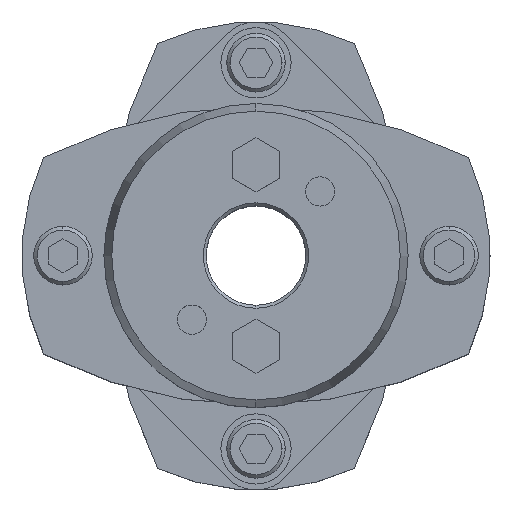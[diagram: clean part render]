
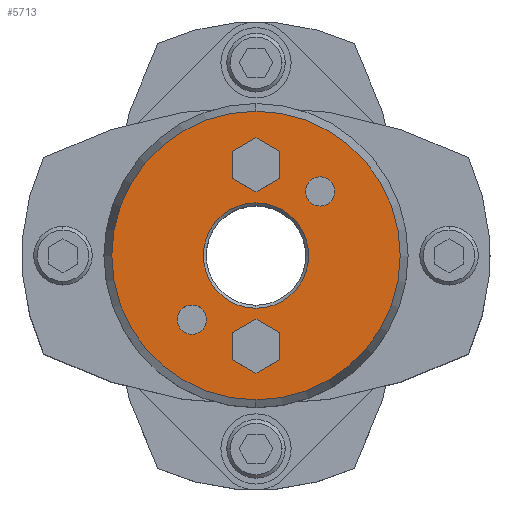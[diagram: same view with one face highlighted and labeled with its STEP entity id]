
A CAD part, top view. The second image highlights one B-rep face of the part: STEP entity #5713.
In plain terms, the highlighted planar face has unit normal (0, 0, 1).
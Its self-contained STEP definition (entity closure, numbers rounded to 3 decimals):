
#1677=CARTESIAN_POINT('',(0.,9.,45.25));
#1678=VERTEX_POINT('',#1677);
#1694=CARTESIAN_POINT('',(0.,-9.,45.25));
#1695=VERTEX_POINT('',#1694);
#1702=CARTESIAN_POINT('',(0.,0.,45.25));
#1703=DIRECTION('',(0.0,0.0,1.0));
#1704=DIRECTION('',(0.0,1.0,0.0));
#1705=AXIS2_PLACEMENT_3D('',#1702,#1703,#1704);
#1706=CIRCLE('',#1705,9.0);
#1707=EDGE_CURVE('',#1695,#1678,#1706,.T.);
#1865=CARTESIAN_POINT('',(0.,-24.66,45.25));
#1866=VERTEX_POINT('',#1865);
#1873=CARTESIAN_POINT('',(0.,24.66,45.25));
#1874=VERTEX_POINT('',#1873);
#1875=CARTESIAN_POINT('',(0.,0.,45.25));
#1876=DIRECTION('',(0.0,0.0,-1.0));
#1877=DIRECTION('',(0.0,-1.0,0.0));
#1878=AXIS2_PLACEMENT_3D('',#1875,#1876,#1877);
#1879=CIRCLE('',#1878,24.66);
#1880=EDGE_CURVE('',#1866,#1874,#1879,.T.);
#1975=CARTESIAN_POINT('',(10.96,13.46,45.25));
#1976=VERTEX_POINT('',#1975);
#1992=CARTESIAN_POINT('',(10.96,8.46,45.25));
#1993=VERTEX_POINT('',#1992);
#2000=CARTESIAN_POINT('',(10.96,10.96,45.25));
#2001=DIRECTION('',(0.0,0.0,-1.0));
#2002=DIRECTION('',(0.0,1.0,0.0));
#2003=AXIS2_PLACEMENT_3D('',#2000,#2001,#2002);
#2004=CIRCLE('',#2003,2.5);
#2005=EDGE_CURVE('',#1976,#1993,#2004,.T.);
#2017=CARTESIAN_POINT('',(-10.96,-8.46,45.25));
#2018=VERTEX_POINT('',#2017);
#2034=CARTESIAN_POINT('',(-10.96,-13.46,45.25));
#2035=VERTEX_POINT('',#2034);
#2042=CARTESIAN_POINT('',(-10.96,-10.96,45.25));
#2043=DIRECTION('',(0.0,0.0,-1.0));
#2044=DIRECTION('',(0.0,1.0,0.0));
#2045=AXIS2_PLACEMENT_3D('',#2042,#2043,#2044);
#2046=CIRCLE('',#2045,2.5);
#2047=EDGE_CURVE('',#2018,#2035,#2046,.T.);
#4957=CARTESIAN_POINT('',(0.,-10.881,45.25));
#4958=VERTEX_POINT('',#4957);
#4965=CARTESIAN_POINT('',(-4.,-13.191,45.25));
#4966=VERTEX_POINT('',#4965);
#4967=CARTESIAN_POINT('',(-4.,-13.191,45.25));
#4968=DIRECTION('',(0.866,0.5,0.0));
#4969=VECTOR('',#4968,4.619);
#4970=LINE('',#4967,#4969);
#4971=EDGE_CURVE('',#4966,#4958,#4970,.T.);
#4995=CARTESIAN_POINT('',(4.,-13.191,45.25));
#4996=VERTEX_POINT('',#4995);
#5003=CARTESIAN_POINT('',(0.,-10.881,45.25));
#5004=DIRECTION('',(0.866,-0.5,0.0));
#5005=VECTOR('',#5004,4.619);
#5006=LINE('',#5003,#5005);
#5007=EDGE_CURVE('',#4958,#4996,#5006,.T.);
#5026=CARTESIAN_POINT('',(4.,-17.809,45.25));
#5027=VERTEX_POINT('',#5026);
#5034=CARTESIAN_POINT('',(4.,-13.191,45.25));
#5035=DIRECTION('',(0.0,-1.0,0.0));
#5036=VECTOR('',#5035,4.619);
#5037=LINE('',#5034,#5036);
#5038=EDGE_CURVE('',#4996,#5027,#5037,.T.);
#5057=CARTESIAN_POINT('',(0.,-20.119,45.25));
#5058=VERTEX_POINT('',#5057);
#5065=CARTESIAN_POINT('',(4.,-17.809,45.25));
#5066=DIRECTION('',(-0.866,-0.5,0.0));
#5067=VECTOR('',#5066,4.619);
#5068=LINE('',#5065,#5067);
#5069=EDGE_CURVE('',#5027,#5058,#5068,.T.);
#5088=CARTESIAN_POINT('',(-4.,-17.809,45.25));
#5089=VERTEX_POINT('',#5088);
#5096=CARTESIAN_POINT('',(0.,-20.119,45.25));
#5097=DIRECTION('',(-0.866,0.5,0.0));
#5098=VECTOR('',#5097,4.619);
#5099=LINE('',#5096,#5098);
#5100=EDGE_CURVE('',#5058,#5089,#5099,.T.);
#5118=CARTESIAN_POINT('',(-4.,-17.809,45.25));
#5119=DIRECTION('',(0.0,1.0,0.0));
#5120=VECTOR('',#5119,4.619);
#5121=LINE('',#5118,#5120);
#5122=EDGE_CURVE('',#5089,#4966,#5121,.T.);
#5157=CARTESIAN_POINT('',(0.,20.119,45.25));
#5158=VERTEX_POINT('',#5157);
#5165=CARTESIAN_POINT('',(-4.,17.809,45.25));
#5166=VERTEX_POINT('',#5165);
#5167=CARTESIAN_POINT('',(-4.,17.809,45.25));
#5168=DIRECTION('',(0.866,0.5,0.0));
#5169=VECTOR('',#5168,4.619);
#5170=LINE('',#5167,#5169);
#5171=EDGE_CURVE('',#5166,#5158,#5170,.T.);
#5195=CARTESIAN_POINT('',(4.,17.809,45.25));
#5196=VERTEX_POINT('',#5195);
#5203=CARTESIAN_POINT('',(0.,20.119,45.25));
#5204=DIRECTION('',(0.866,-0.5,0.0));
#5205=VECTOR('',#5204,4.619);
#5206=LINE('',#5203,#5205);
#5207=EDGE_CURVE('',#5158,#5196,#5206,.T.);
#5226=CARTESIAN_POINT('',(4.,13.191,45.25));
#5227=VERTEX_POINT('',#5226);
#5234=CARTESIAN_POINT('',(4.,17.809,45.25));
#5235=DIRECTION('',(0.0,-1.0,0.0));
#5236=VECTOR('',#5235,4.619);
#5237=LINE('',#5234,#5236);
#5238=EDGE_CURVE('',#5196,#5227,#5237,.T.);
#5257=CARTESIAN_POINT('',(0.,10.881,45.25));
#5258=VERTEX_POINT('',#5257);
#5265=CARTESIAN_POINT('',(4.,13.191,45.25));
#5266=DIRECTION('',(-0.866,-0.5,0.0));
#5267=VECTOR('',#5266,4.619);
#5268=LINE('',#5265,#5267);
#5269=EDGE_CURVE('',#5227,#5258,#5268,.T.);
#5288=CARTESIAN_POINT('',(-4.,13.191,45.25));
#5289=VERTEX_POINT('',#5288);
#5296=CARTESIAN_POINT('',(0.,10.881,45.25));
#5297=DIRECTION('',(-0.866,0.5,0.0));
#5298=VECTOR('',#5297,4.619);
#5299=LINE('',#5296,#5298);
#5300=EDGE_CURVE('',#5258,#5289,#5299,.T.);
#5318=CARTESIAN_POINT('',(-4.,13.191,45.25));
#5319=DIRECTION('',(0.0,1.0,0.0));
#5320=VECTOR('',#5319,4.619);
#5321=LINE('',#5318,#5320);
#5322=EDGE_CURVE('',#5289,#5166,#5321,.T.);
#5348=CARTESIAN_POINT('',(-10.96,-10.96,45.25));
#5349=DIRECTION('',(0.0,0.0,-1.0));
#5350=DIRECTION('',(0.0,1.0,0.0));
#5351=AXIS2_PLACEMENT_3D('',#5348,#5349,#5350);
#5352=CIRCLE('',#5351,2.5);
#5353=EDGE_CURVE('',#2035,#2018,#5352,.T.);
#5382=CARTESIAN_POINT('',(10.96,10.96,45.25));
#5383=DIRECTION('',(0.0,0.0,-1.0));
#5384=DIRECTION('',(0.0,1.0,0.0));
#5385=AXIS2_PLACEMENT_3D('',#5382,#5383,#5384);
#5386=CIRCLE('',#5385,2.5);
#5387=EDGE_CURVE('',#1993,#1976,#5386,.T.);
#5660=CARTESIAN_POINT('',(0.,0.,45.25));
#5661=DIRECTION('',(0.0,0.0,-1.0));
#5662=DIRECTION('',(0.0,-1.0,0.0));
#5663=AXIS2_PLACEMENT_3D('',#5660,#5661,#5662);
#5664=CIRCLE('',#5663,24.66);
#5665=EDGE_CURVE('',#1874,#1866,#5664,.T.);
#5670=CARTESIAN_POINT('',(0.,2.364,45.25));
#5671=DIRECTION('',(0.0,0.0,1.0));
#5672=DIRECTION('',(0.0,1.0,0.0));
#5673=AXIS2_PLACEMENT_3D('',#5670,#5671,#5672);
#5674=PLANE('',#5673);
#5675=ORIENTED_EDGE('',*,*,#5665,.F.);
#5676=ORIENTED_EDGE('',*,*,#1880,.F.);
#5677=EDGE_LOOP('',(#5675,#5676));
#5678=FACE_OUTER_BOUND('',#5677,.T.);
#5679=ORIENTED_EDGE('',*,*,#4971,.T.);
#5680=ORIENTED_EDGE('',*,*,#5007,.T.);
#5681=ORIENTED_EDGE('',*,*,#5038,.T.);
#5682=ORIENTED_EDGE('',*,*,#5069,.T.);
#5683=ORIENTED_EDGE('',*,*,#5100,.T.);
#5684=ORIENTED_EDGE('',*,*,#5122,.T.);
#5685=EDGE_LOOP('',(#5679,#5680,#5681,#5682,#5683,#5684));
#5686=FACE_BOUND('',#5685,.T.);
#5687=ORIENTED_EDGE('',*,*,#5171,.T.);
#5688=ORIENTED_EDGE('',*,*,#5207,.T.);
#5689=ORIENTED_EDGE('',*,*,#5238,.T.);
#5690=ORIENTED_EDGE('',*,*,#5269,.T.);
#5691=ORIENTED_EDGE('',*,*,#5300,.T.);
#5692=ORIENTED_EDGE('',*,*,#5322,.T.);
#5693=EDGE_LOOP('',(#5687,#5688,#5689,#5690,#5691,#5692));
#5694=FACE_BOUND('',#5693,.T.);
#5695=ORIENTED_EDGE('',*,*,#2047,.T.);
#5696=ORIENTED_EDGE('',*,*,#5353,.T.);
#5697=EDGE_LOOP('',(#5695,#5696));
#5698=FACE_BOUND('',#5697,.T.);
#5699=ORIENTED_EDGE('',*,*,#2005,.T.);
#5700=ORIENTED_EDGE('',*,*,#5387,.T.);
#5701=EDGE_LOOP('',(#5699,#5700));
#5702=FACE_BOUND('',#5701,.T.);
#5703=ORIENTED_EDGE('',*,*,#1707,.F.);
#5704=CARTESIAN_POINT('',(0.,0.,45.25));
#5705=DIRECTION('',(0.0,0.0,1.0));
#5706=DIRECTION('',(0.0,1.0,0.0));
#5707=AXIS2_PLACEMENT_3D('',#5704,#5705,#5706);
#5708=CIRCLE('',#5707,9.0);
#5709=EDGE_CURVE('',#1678,#1695,#5708,.T.);
#5710=ORIENTED_EDGE('',*,*,#5709,.F.);
#5711=EDGE_LOOP('',(#5703,#5710));
#5712=FACE_BOUND('',#5711,.T.);
#5713=ADVANCED_FACE('',(#5678,#5686,#5694,#5698,#5702,#5712),#5674,.T.);
